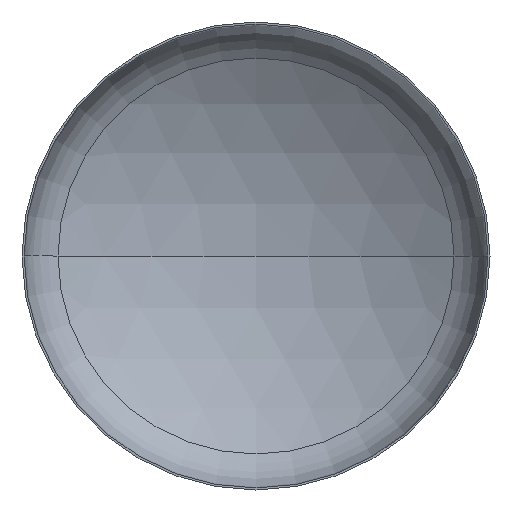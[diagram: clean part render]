
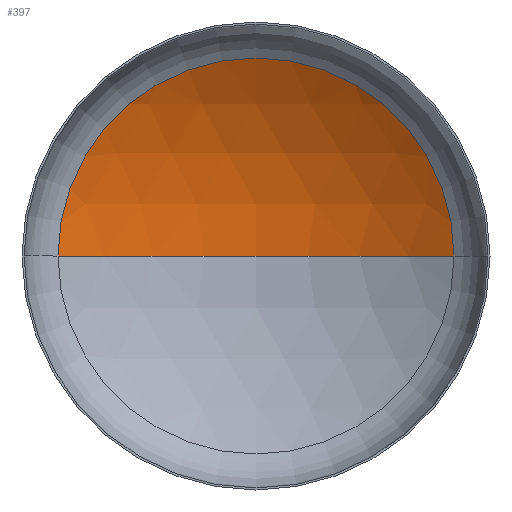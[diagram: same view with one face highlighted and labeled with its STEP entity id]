
A CAD part, front view. The second image highlights one B-rep face of the part: STEP entity #397.
In plain terms, the highlighted spherical face has radius 5200 mm.
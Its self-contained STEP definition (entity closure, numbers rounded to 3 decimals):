
#24 = CIRCLE ( 'NONE', #100, 2749.81 ) ;
#29 = ORIENTED_EDGE ( 'NONE', *, *, #184, .T. ) ;
#41 = ORIENTED_EDGE ( 'NONE', *, *, #190, .T. ) ;
#78 = AXIS2_PLACEMENT_3D ( 'NONE', #188, #383, #144 ) ;
#84 = AXIS2_PLACEMENT_3D ( 'NONE', #133, #225, #142 ) ;
#100 = AXIS2_PLACEMENT_3D ( 'NONE', #164, #165, #404 ) ;
#103 = VERTEX_POINT ( 'NONE', #218 ) ;
#114 = ORIENTED_EDGE ( 'NONE', *, *, #194, .F. ) ;
#118 = EDGE_LOOP ( 'NONE', ( #114, #41, #29 ) ) ;
#133 = CARTESIAN_POINT ( 'NONE',  ( 0., -3474.71, 0. ) ) ;
#142 = DIRECTION ( 'NONE',  ( -1., 0., 0. ) ) ;
#144 = DIRECTION ( 'NONE',  ( 1., 0., 0. ) ) ;
#156 = CIRCLE ( 'NONE', #78, 5200. ) ;
#159 = CARTESIAN_POINT ( 'NONE',  ( -2749.81, 938.741, 0. ) ) ;
#164 = CARTESIAN_POINT ( 'NONE',  ( 0., 938.741, 0. ) ) ;
#165 = DIRECTION ( 'NONE',  ( 0., -1., 0. ) ) ;
#169 = CIRCLE ( 'NONE', #84, 5200. ) ;
#175 = SPHERICAL_SURFACE ( 'NONE', #329, 5200. ) ;
#184 = EDGE_CURVE ( 'NONE', #103, #387, #24, .T. ) ;
#188 = CARTESIAN_POINT ( 'NONE',  ( 0., -3474.71, 0. ) ) ;
#190 = EDGE_CURVE ( 'NONE', #206, #103, #169, .T. ) ;
#194 = EDGE_CURVE ( 'NONE', #206, #387, #156, .T. ) ;
#206 = VERTEX_POINT ( 'NONE', #316 ) ;
#218 = CARTESIAN_POINT ( 'NONE',  ( 2749.81, 938.741, 0. ) ) ;
#225 = DIRECTION ( 'NONE',  ( 0., 0., -1. ) ) ;
#257 = FACE_OUTER_BOUND ( 'NONE', #118, .T. ) ;
#316 = CARTESIAN_POINT ( 'NONE',  ( 0., 1725.29, 0. ) ) ;
#326 = CARTESIAN_POINT ( 'NONE',  ( 0., -3474.71, 0. ) ) ;
#329 = AXIS2_PLACEMENT_3D ( 'NONE', #326, #382, #407 ) ;
#382 = DIRECTION ( 'NONE',  ( 0., 0., -1. ) ) ;
#383 = DIRECTION ( 'NONE',  ( 0., 0., 1. ) ) ;
#387 = VERTEX_POINT ( 'NONE', #159 ) ;
#397 = ADVANCED_FACE ( 'NONE', ( #257 ), #175, .F. ) ;
#404 = DIRECTION ( 'NONE',  ( 1., 0., 0. ) ) ;
#407 = DIRECTION ( 'NONE',  ( -1., 0., 0. ) ) ;
